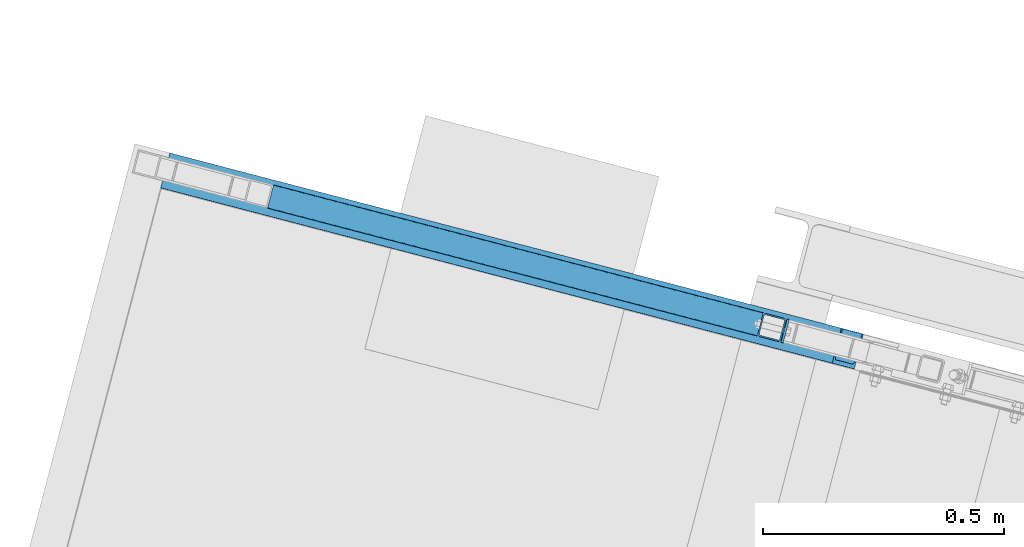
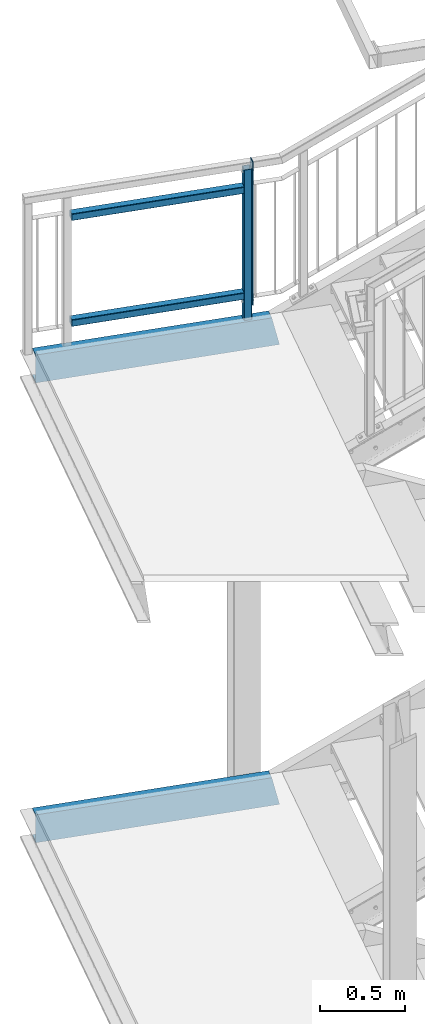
# One storey, part 41 of 169: 6 discrete accessories, 4 elements without a shape of their own.
"""IFC2X3 building model written with IfcOpenShell, lengths in millimetres."""

import ifcopenshell
import ifcopenshell.guid

model = None  # the IFC model being written
_history = None  # IfcOwnerHistory: only IFC2X3 demands one
_inside = {}  # id of a spatial element -> (the spatial element, [elements in it])
_under = {}  # id of a project, library or spatial element -> (it, [spatial elements below it])
_declared = {}  # id of a project -> (the project, [libraries it declares])
_typed = {}  # id of a type object -> (the type object, [elements of that type])
_made_of = {}  # id of a material, layer set ... -> (it, [elements and type objects made of it])


def new_model(schema):
    """Start an empty IFC model of exactly this schema.

    Asked for "IFC4X3", IfcOpenShell would pick the latest addendum, in which some entities
    have other attributes; the version numbers below select the first issue.
    IFC2X3 requires an IfcOwnerHistory on every rooted entity: one is made here for all.
    """
    global model, _history
    if schema == "IFC4X3":
        model = ifcopenshell.file(schema_version=(4, 3, 0, 0))
    else:
        model = ifcopenshell.file(schema=schema)
    _inside.clear()
    _under.clear()
    _declared.clear()
    _typed.clear()
    _made_of.clear()
    _history = None
    if model.schema == "IFC2X3":
        org = make("IfcOrganization", Name="unknown")
        user = make(
            "IfcPersonAndOrganization",
            ThePerson=make("IfcPerson", FamilyName="unknown"),
            TheOrganization=org,
        )
        app = make(
            "IfcApplication",
            ApplicationDeveloper=org,
            Version="unknown",
            ApplicationFullName="unknown",
            ApplicationIdentifier="unknown",
        )
        _history = make(
            "IfcOwnerHistory",
            OwningUser=user,
            OwningApplication=app,
            ChangeAction="ADDED",
            CreationDate=0,
        )
    return model


def make(cls, **values):
    """One entity of the class cls with the attributes given. An attribute that is None is left unset."""
    return model.create_entity(
        cls, **{name: value for name, value in values.items() if value is not None}
    )


def rooted(cls, **values):
    """An entity with a GlobalId (a new one), such as an element, a storey or a relation."""
    return make(cls, GlobalId=ifcopenshell.guid.new(), OwnerHistory=_history, **values)


def si_unit(unit_type, name, prefix=None):
    """IfcSIUnit, for example si_unit("LENGTHUNIT", "METRE", prefix="MILLI")."""
    return make("IfcSIUnit", UnitType=unit_type, Prefix=prefix, Name=name)


def assignment(units):
    """IfcUnitAssignment: the units of a project."""
    return None if units is None else make("IfcUnitAssignment", Units=units)


def point(xyz):
    """IfcCartesianPoint."""
    return None if xyz is None else make("IfcCartesianPoint", Coordinates=xyz)


def direction(xyz):
    """IfcDirection."""
    return None if xyz is None else make("IfcDirection", DirectionRatios=xyz)


def frame(location, z_axis=None, x_axis=None):
    """IfcAxis2Placement3D, a coordinate frame: its origin and axes. An axis left out is left unset."""
    return make(
        "IfcAxis2Placement3D",
        Location=point(location),
        Axis=direction(z_axis),
        RefDirection=direction(x_axis),
    )


def frame_2d(location, x_axis=None):
    """IfcAxis2Placement2D, a coordinate frame in the plane: its origin and x axis."""
    return make(
        "IfcAxis2Placement2D", Location=point(location), RefDirection=direction(x_axis)
    )


def origin_with_axes():
    """The frame at (0, 0, 0) with the z axis (0, 0, 1) and the x axis (1, 0, 0) written out."""
    return frame((0.0, 0.0, 0.0), z_axis=(0.0, 0.0, 1.0), x_axis=(1.0, 0.0, 0.0))


def origin_2d_with_axis():
    """The frame at (0, 0) in the plane with the x axis (1, 0) written out."""
    return frame_2d((0.0, 0.0), x_axis=(1.0, 0.0))


def place(relative_to, where):
    """IfcLocalPlacement: puts the frame where relative to a parent placement (None: the world)."""
    return make(
        "IfcLocalPlacement", PlacementRelTo=relative_to, RelativePlacement=where
    )


def context(
    kind, dimensions, precision=None, world=None, true_north=None, identifier=None
):
    """IfcGeometricRepresentationContext, for example the 3D "Model" context."""
    return make(
        "IfcGeometricRepresentationContext",
        ContextIdentifier=identifier,
        ContextType=kind,
        CoordinateSpaceDimension=dimensions,
        Precision=precision,
        WorldCoordinateSystem=world,
        TrueNorth=true_north,
    )


def subcontext(parent, identifier, kind, view, scale=None):
    """IfcGeometricRepresentationSubContext, for example "Body" below "Model"."""
    return make(
        "IfcGeometricRepresentationSubContext",
        ContextIdentifier=identifier,
        ContextType=kind,
        ParentContext=parent,
        TargetScale=scale,
        TargetView=view,
    )


def project(units=None, contexts=None):
    """IfcProject with its units and contexts."""
    return rooted(
        "IfcProject",
        Name="project",
        RepresentationContexts=contexts,
        UnitsInContext=assignment(units),
    )


def spatial(cls, under=None, at=None, **own):
    """A site, building, storey or space (cls), placed at a placement, below another one or the project."""
    s = rooted(cls, ObjectPlacement=at, **own)
    if under is not None:
        _under.setdefault(under.id(), (under, []))[1].append(s)
    return s


def polyline(points):
    """IfcPolyline through the points."""
    return make("IfcPolyline", Points=[point(p) for p in points])


def profile(cls, at=None, kind="AREA", **sizes):
    """A parametric profile (cls). Its sizes go by their IFC names, for example OverallWidth=200.0."""
    return make(cls, ProfileType=kind, Position=at, **sizes)


def hollow_rectangle(**sizes):
    """IfcRectangleHollowProfileDef."""
    return profile("IfcRectangleHollowProfileDef", **sizes)


def u_section(**sizes):
    """IfcUShapeProfileDef."""
    return profile("IfcUShapeProfileDef", **sizes)


def outline(outer, holes=None, kind="AREA"):
    """IfcArbitraryClosedProfileDef: a profile drawn as a closed curve; with holes, ...WithVoids."""
    if holes is None:
        return make("IfcArbitraryClosedProfileDef", ProfileType=kind, OuterCurve=outer)
    return make(
        "IfcArbitraryProfileDefWithVoids",
        ProfileType=kind,
        OuterCurve=outer,
        InnerCurves=holes,
    )


def extrude(swept, where, along, depth):
    """IfcExtrudedAreaSolid: the profile swept, set in the frame where, extruded along a direction by depth."""
    return make(
        "IfcExtrudedAreaSolid",
        SweptArea=swept,
        Position=where,
        ExtrudedDirection=direction(along),
        Depth=depth,
    )


def clip(a, b, op="DIFFERENCE"):
    """IfcBooleanClippingResult: the solid a cut by the half space b."""
    return make(
        "IfcBooleanClippingResult", Operator=op, FirstOperand=a, SecondOperand=b
    )


def halfspace(plane, agree):
    """IfcHalfSpaceSolid: all space on one side of the plane z = 0 of the frame plane."""
    return make(
        "IfcHalfSpaceSolid",
        BaseSurface=make("IfcPlane", Position=plane),
        AgreementFlag=agree,
    )


def shape(context_of_items, identifier, shape_type, items):
    """IfcShapeRepresentation: the items that make up one representation, for example the "Body"."""
    return make(
        "IfcShapeRepresentation",
        ContextOfItems=context_of_items,
        RepresentationIdentifier=identifier,
        RepresentationType=shape_type,
        Items=items,
    )


def material(Name=None, Category=None):
    """IfcMaterial."""
    return make("IfcMaterial", Name=Name, Category=Category)


def made_of(thing, what):
    """Note that an element or type object is made of a material, layer set ...; save() writes the relation."""
    if what is not None:
        _made_of.setdefault(what.id(), (what, []))[1].append(thing)
    return thing


def type_object(cls, material=None, **own):
    """A type object (cls), such as IfcWallType, which elements share."""
    return made_of(rooted(cls, **own), material)


def element(
    cls,
    number,
    at=None,
    inside=None,
    cuts=None,
    type_object=None,
    material=None,
    context=None,
    identifier="Body",
    shape_type=None,
    held_by="IfcProductDefinitionShape",
    body=None,
    shapes=None,
    **own,
):
    """One element of the class cls, such as IfcWall. Its Tag is "e" and its number.

    at: its placement. inside: the storey or other place that contains it. cuts: it is an
    opening in that element (IfcRelVoidsElement). A single representation is given by context,
    identifier, shape_type and body (its items); several are given by shapes. held_by: the class
    of the entity that holds the representations. save() writes the other relations.
    """
    e = rooted(cls, Tag="e%d" % number, ObjectPlacement=at, **own)
    if body is not None:
        shapes = [shape(context, identifier, shape_type, body)]
    if shapes is not None:
        e.Representation = make(held_by, Representations=shapes)
    if inside is not None:
        _inside.setdefault(inside.id(), (inside, []))[1].append(e)
    if cuts is not None:
        rooted(
            "IfcRelVoidsElement", RelatingBuildingElement=cuts, RelatedOpeningElement=e
        )
    if type_object is not None:
        _typed.setdefault(type_object.id(), (type_object, []))[1].append(e)
    return made_of(e, material)


def aggregate(whole, parts):
    """IfcRelAggregates: a whole, such as a stair, and the parts it consists of."""
    return rooted("IfcRelAggregates", RelatingObject=whole, RelatedObjects=parts)


def save(model, path):
    """Write the relations noted so far, then the file.

    IfcRelAggregates (storeys below a building ...), IfcRelContainedInSpatialStructure (elements
    in a storey), IfcRelDefinesByType, IfcRelAssociatesMaterial and IfcRelDeclares: one each for
    every whole, place, type object, material and project.
    """
    for whole, parts in _under.values():
        aggregate(whole, parts)
    for where, things in _inside.values():
        rooted(
            "IfcRelContainedInSpatialStructure",
            RelatedElements=things,
            RelatingStructure=where,
        )
    for kind, things in _typed.values():
        rooted("IfcRelDefinesByType", RelatedObjects=things, RelatingType=kind)
    for what, things in _made_of.values():
        rooted("IfcRelAssociatesMaterial", RelatedObjects=things, RelatingMaterial=what)
    for by, libraries in _declared.values():
        rooted("IfcRelDeclares", RelatingContext=by, RelatedDefinitions=libraries)
    model.write(path)


model = new_model("IFC2X3")

# Units and contexts
model_context = context("Model", 3, precision=1e-05, world=origin_with_axes())
body_context = subcontext(model_context, "Body", "Model", "MODEL_VIEW")
ifc_project = project(units=[si_unit("LENGTHUNIT", "METRE", prefix="MILLI"), si_unit("AREAUNIT", "SQUARE_METRE"), si_unit("VOLUMEUNIT", "CUBIC_METRE"), si_unit("MASSUNIT", "GRAM", prefix="KILO"), si_unit("TIMEUNIT", "SECOND"), si_unit("PLANEANGLEUNIT", "RADIAN"), si_unit("SOLIDANGLEUNIT", "STERADIAN"), si_unit("THERMODYNAMICTEMPERATUREUNIT", "DEGREE_CELSIUS"), si_unit("LUMINOUSINTENSITYUNIT", "LUMEN")], contexts=[model_context])

# Site, building, storey
site_placement = place(None, origin_with_axes())
site = spatial("IfcSite", under=ifc_project, at=site_placement, Name="Undefined", CompositionType="ELEMENT")
building_placement = place(site_placement, origin_with_axes())
building = spatial("IfcBuilding", under=site, at=building_placement, Name="Undefined", CompositionType="ELEMENT")
storey_placement = place(building_placement, origin_with_axes())
storey = spatial("IfcBuildingStorey", under=building, at=storey_placement, Name="Undefined", CompositionType="ELEMENT", Elevation=0.0)

# Assembly, discrete accessory
assembly_1_placement = place(storey_placement, origin_with_axes())
assembly_1 = element("IfcElementAssembly", 1, at=assembly_1_placement, inside=storey, Name="Steel Assembly", AssemblyPlace="NOTDEFINED", PredefinedType="RIGID_FRAME")
ifc_material = material(Name="STEEL/S235")
discrete_accessory_type_1 = type_object("IfcDiscreteAccessoryType", Name="BLACHA")
discrete_accessory_1_placement = place(assembly_1_placement, frame((-27715.3155692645, 8870.7249430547, 12448.9911049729), z_axis=(-0.967563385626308, 0.252628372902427, -1.72000000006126e-07), x_axis=(-0.252628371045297, -0.967563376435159, 0.000136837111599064)))
discrete_accessory_1 = element("IfcDiscreteAccessory", 2, at=discrete_accessory_1_placement, type_object=discrete_accessory_type_1, material=ifc_material, Name="BLACHA", ObjectType="BL5*50", context=body_context, shape_type="SweptSolid", body=[
    extrude(outline(polyline([(0.0, 0.0), (50.0000000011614, 3.27418092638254e-11), (49.9999999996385, 1030.9999999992), (8.27219537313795e-08, 1030.99999999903), (0.0, 0.0)])), frame((6.80888809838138e-19, -2.87858853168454e-21, -2.49999999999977), z_axis=(0.0, 0.0, 1.0), x_axis=(1.0, 0.0, 0.0)), (0.0, 0.0, 1.0), 5.0),
])
aggregate(assembly_1, [discrete_accessory_1])

# Assembly, discrete accessories
assembly_2_placement = place(storey_placement, origin_with_axes())
assembly_2 = element("IfcElementAssembly", 3, at=assembly_2_placement, inside=storey, Name="Steel Assembly", AssemblyPlace="NOTDEFINED", PredefinedType="RIGID_FRAME")
discrete_accessory_type_2 = type_object("IfcDiscreteAccessoryType", Name="PORĘCZ")
discrete_accessory_2_placement = place(assembly_2_placement, frame((-27773.3661555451, 8860.16547214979, 13284.9979390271), z_axis=(-0.252628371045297, -0.967563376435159, 0.000136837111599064), x_axis=(-0.967563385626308, 0.252628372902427, -1.72000000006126e-07)))
discrete_accessory_2 = element("IfcDiscreteAccessory", 4, at=discrete_accessory_2_placement, type_object=discrete_accessory_type_2, material=ifc_material, Name="PORĘCZ", ObjectType="SHS50*3", context=body_context, shape_type="Clipping", body=[
    clip(clip(extrude(hollow_rectangle(XDim=50.0, YDim=50.0, WallThickness=3.0, InnerFilletRadius=3.0, OuterFilletRadius=6.0, at=origin_2d_with_axis()), frame((1049.99999635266, 1.81899651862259e-12, -2.50111042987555e-12), z_axis=(-1.0, -3.46944695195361e-18, -1.38777878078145e-17), x_axis=(1.73472347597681e-18, -1.0, 0.0)), (0.0, 0.0, 1.0), 1050.0), halfspace(frame((1049.99999694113, 5.80439518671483e-09, 1000.00000001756), z_axis=(-1.0, -3.46944695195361e-18, -1.38777878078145e-17), x_axis=(1.73472347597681e-18, -1.0, 0.0)), True)), halfspace(frame((5.86016540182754e-07, -4.56748239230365e-09, 999.999999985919), z_axis=(1.0, 0.0, 0.0), x_axis=(0.0, 1.0, 0.0)), True)),
])
discrete_accessory_3_placement = place(assembly_2_placement, frame((-28397.4725388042, 9023.00352866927, 12524.9979461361), z_axis=(-0.252628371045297, -0.967563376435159, 0.000136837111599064), x_axis=(0.967563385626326, -0.252628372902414, 0.0)))
discrete_accessory_3 = element("IfcDiscreteAccessory", 5, at=discrete_accessory_3_placement, type_object=discrete_accessory_type_2, material=ifc_material, Name="PORĘCZ", ObjectType="SHS50*3", context=body_context, shape_type="Clipping", body=[
    clip(clip(extrude(hollow_rectangle(XDim=50.0, YDim=50.0, WallThickness=3.0, InnerFilletRadius=3.0, OuterFilletRadius=6.0, at=origin_2d_with_axis()), frame((644.999998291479, -1.81898503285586e-12, 8.73690009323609e-13), z_axis=(-1.0, -3.46944695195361e-18, -1.38777878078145e-17), x_axis=(1.73472347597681e-18, -1.0, 0.0)), (0.0, 0.0, 1.0), 1050.0), halfspace(frame((644.999997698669, 4.56930138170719e-09, 999.999999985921), z_axis=(-1.0, -3.46944695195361e-18, -1.38777878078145e-17), x_axis=(1.73472347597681e-18, -1.0, 0.0)), True)), halfspace(frame((-404.999998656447, -5.80257619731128e-09, 1000.00000001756), z_axis=(1.0, 0.0, 0.0), x_axis=(0.0, 1.0, 0.0)), True)),
])
discrete_accessory_type_3 = type_object("IfcDiscreteAccessoryType", Name="STANCHION")
discrete_accessory_4_placement = place(assembly_2_placement, frame((-27749.2102573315, 8853.722659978, 12349.994526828), z_axis=(3.4552000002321e-05, 0.000132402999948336, 0.999999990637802), x_axis=(0.252628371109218, 0.967563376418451, -0.000136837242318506)))
discrete_accessory_4 = element("IfcDiscreteAccessory", 6, at=discrete_accessory_4_placement, type_object=discrete_accessory_type_3, material=ifc_material, Name="STANCHION", ObjectType="SHS50*3", context=body_context, shape_type="Clipping", body=[
    clip(extrude(hollow_rectangle(XDim=50.0, YDim=50.0, WallThickness=3.0, InnerFilletRadius=3.0, OuterFilletRadius=6.0, at=origin_2d_with_axis()), frame((-1.81898940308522e-12, 1.81898940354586e-12, 1079.99999978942), z_axis=(-2.54700353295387e-10, 0.0, -1.0), x_axis=(0.0, 1.0, 0.0)), (0.0, 0.0, 1.0), 1080.0), halfspace(frame((999.999999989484, -5.99902705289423e-09, 1079.99999955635), z_axis=(-2.54700353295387e-10, 0.0, -1.0), x_axis=(0.0, 1.0, 0.0)), True)),
])
aggregate(assembly_2, [discrete_accessory_2, discrete_accessory_3, discrete_accessory_4])

# Assembly, discrete accessory
assembly_3_placement = place(storey_placement, origin_with_axes())
assembly_3 = element("IfcElementAssembly", 7, at=assembly_3_placement, inside=storey, Name="Steel Assembly", AssemblyPlace="NOTDEFINED", PredefinedType="RIGID_FRAME")
discrete_accessory_type_4 = type_object("IfcDiscreteAccessoryType", Name="BELKA")
discrete_accessory_5_placement = place(assembly_3_placement, frame((-27614.4317718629, 8815.94853088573, 12250.0957859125), z_axis=(0.0, 0.0, 1.0), x_axis=(-0.967580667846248, 0.252562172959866, 0.0)))
discrete_accessory_5 = element("IfcDiscreteAccessory", 8, at=discrete_accessory_5_placement, type_object=discrete_accessory_type_4, material=ifc_material, Name="BELKA", ObjectType="UPN200", context=body_context, shape_type="Clipping", body=[
    clip(extrude(u_section(Depth=200.0, FlangeWidth=75.0, WebThickness=8.5, FlangeThickness=11.5, FilletRadius=11.5, EdgeRadius=6.0, at=origin_2d_with_axis()), frame((1439.99999969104, 4.90047387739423e-16, 6.78473390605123e-18), z_axis=(-1.0, -3.46944695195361e-18, -1.38777878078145e-17), x_axis=(1.73472347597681e-18, -1.0, 0.0)), (0.0, 0.0, 1.0), 1524.47), halfspace(frame((3.62019272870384e-06, -1.1159072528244e-06, 100.000000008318), z_axis=(0.973248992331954, -5.59252455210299e-10, -0.229752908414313), x_axis=(0.0, 1.0, 0.0)), True)),
])
aggregate(assembly_3, [discrete_accessory_5])

assembly_4_placement = place(storey_placement, origin_with_axes())
assembly_4 = element("IfcElementAssembly", 9, at=assembly_4_placement, inside=storey, Name="Steel Assembly", AssemblyPlace="NOTDEFINED", PredefinedType="RIGID_FRAME")
discrete_accessory_6_placement = place(assembly_4_placement, frame((-27614.5458492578, 8815.51161593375, 8950.09581680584), z_axis=(0.0, 0.0, 1.0), x_axis=(-0.967580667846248, 0.252562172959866, 0.0)))
discrete_accessory_6 = element("IfcDiscreteAccessory", 10, at=discrete_accessory_6_placement, type_object=discrete_accessory_type_4, material=ifc_material, Name="BELKA", ObjectType="UPN200", context=body_context, shape_type="Clipping", body=[
    clip(extrude(u_section(Depth=200.0, FlangeWidth=75.0, WebThickness=8.5, FlangeThickness=11.5, FilletRadius=11.5, EdgeRadius=6.0, at=origin_2d_with_axis()), frame((1439.99999969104, 4.90047387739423e-16, 6.78473390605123e-18), z_axis=(-1.0, -3.46944695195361e-18, -1.38777878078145e-17), x_axis=(1.73472347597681e-18, -1.0, 0.0)), (0.0, 0.0, 1.0), 1524.47), halfspace(frame((3.62019272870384e-06, -1.1159072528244e-06, 100.000000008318), z_axis=(0.973248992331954, -5.59252455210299e-10, -0.229752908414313), x_axis=(0.0, 1.0, 0.0)), True)),
])
aggregate(assembly_4, [discrete_accessory_6])

save(model, "model.ifc")
